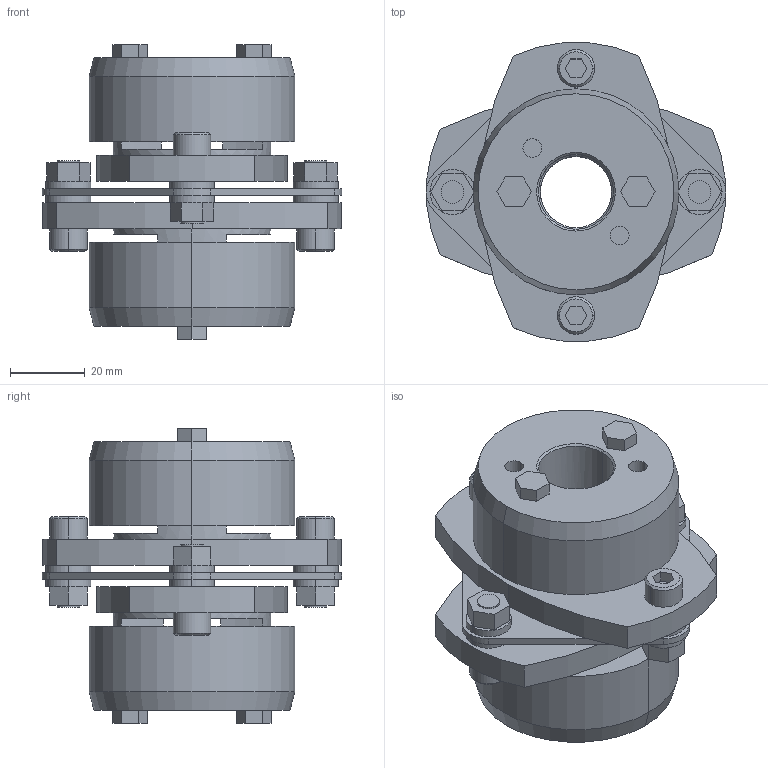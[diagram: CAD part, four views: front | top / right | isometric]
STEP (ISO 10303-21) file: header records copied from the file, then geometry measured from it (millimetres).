
FILE_DESCRIPTION((''),'2;1');
FILE_NAME('LCS-80T7-19×20.stp','2011-09-12T15:14:56',(''),(''),'AutoCAD STEP 2000i','AutoCAD 2000i',', , ');
FILE_SCHEMA(('CONFIG_CONTROL_DESIGN'));
Length unit declared in the file: millimetre
Products named in the file (7): LCS-80T7-19×19; 忣兜1; LC80T7-T019-1; LC80T7-T019; LC80T7-T017-1; LC80T7-T017; LCS80-ITA
Assembly tree (6 placements, depth 2):
  LCS-80T7-19×19
    忣兜1
    LC80T7-T019-1
    LC80T7-T019
    LC80T7-T017-1
    LC80T7-T017
    LCS80-ITA
Bounding box: 80 x 79.95 x 78.75 mm (x, y, z)
Volume: 151308.6 mm3; surface area: 42459.8 mm2
Topology: 1 solids, 1 shells, 218 faces, 532 edges, 348 vertices
Faces by surface type: plane 118, cylinder 80, cone 20
Entity records: 6647 total; most frequent: DIRECTION 1178, CARTESIAN_POINT 1105, ORIENTED_EDGE 1064, EDGE_CURVE 532, AXIS2_PLACEMENT_3D 421, VERTEX_POINT 348, VECTOR 336, LINE 336
